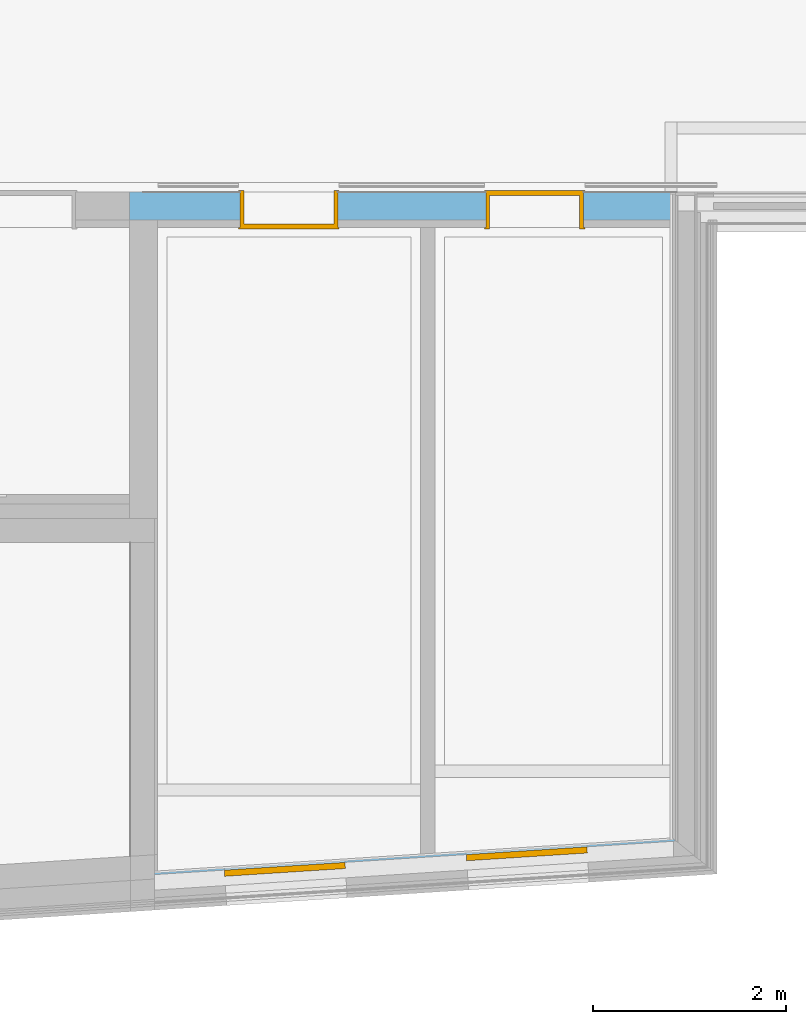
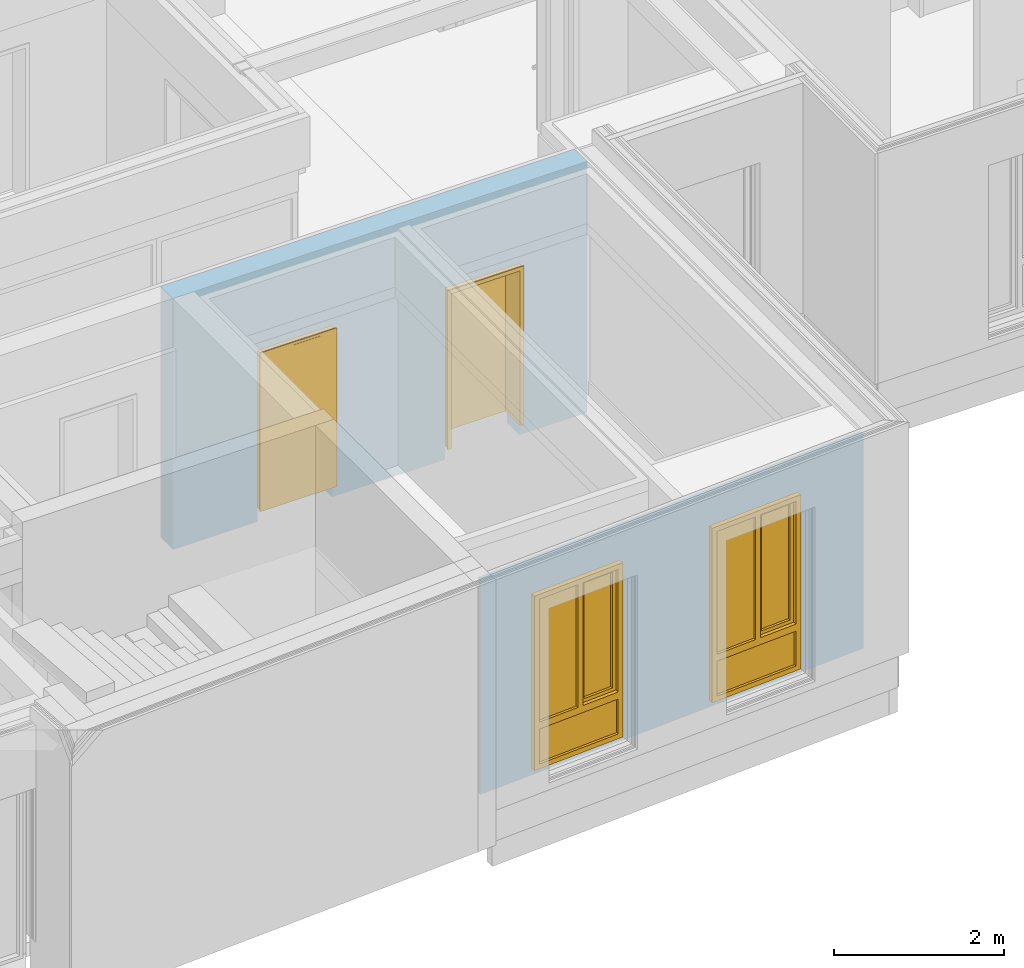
# One storey, part 119 of 207: 2 doors, 2 windows, 4 openings, plus 2 elements that do not belong to this part.
"""IFC4 building model written with IfcOpenShell, lengths in metres."""

from ifc_helpers import new_model, entity, si_unit, converted_unit, derived_unit, frame, frame_2d, origin, origin_with_axes, place, context, subcontext, project, spatial, polyline, rectangle, outline, extrude, closed_shell, open_shell, faceted_brep, surface_model, source, transform, mapped, material, type_object, element, fill, save


model = new_model("IFC4")

# Units and contexts
model_context = context("Model", 3, precision=1e-05, world=origin())
body_context = subcontext(model_context, "Body", "Model", "MODEL_VIEW")
ifc_project = project(units=[si_unit("LENGTHUNIT", "METRE"), si_unit("AREAUNIT", "SQUARE_METRE"), si_unit("VOLUMEUNIT", "CUBIC_METRE"), si_unit("MASSUNIT", "GRAM", prefix="KILO"), converted_unit("PLANEANGLEUNIT", "DEGREE", entity("IfcPlaneAngleMeasure", 0.0174532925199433), si_unit("PLANEANGLEUNIT", "RADIAN"), dimensions=[0, 0, 0, 0, 0, 0, 0]), derived_unit("THERMALTRANSMITTANCEUNIT", [(si_unit("POWERUNIT", "WATT"), 1), (si_unit("THERMODYNAMICTEMPERATUREUNIT", "KELVIN"), -1), (si_unit("LENGTHUNIT", "METRE"), -2)]), derived_unit("VOLUMETRICFLOWRATEUNIT", [(si_unit("LENGTHUNIT", "METRE"), 3), (converted_unit("TIMEUNIT", "hour", entity("IfcTimeMeasure", 3600.0), si_unit("TIMEUNIT", "SECOND"), dimensions=[0, 0, 1, 0, 0, 0, 0]), -1), (si_unit("LENGTHUNIT", "METRE"), -1)])], contexts=[model_context])

# Site, building, storey
site_placement = place(None, origin())
site = spatial("IfcSite", under=ifc_project, at=site_placement, Name="Psychiatrie Neubau Wunstorf", CompositionType="ELEMENT")
building_placement = place(site_placement, origin())
building = spatial("IfcBuilding", under=site, at=building_placement, Name="Neubau H2 Stationsgebäude", CompositionType="ELEMENT")
storey_placement = place(building_placement, frame((0.0, 0.0, -0.2)))
storey = spatial("IfcBuildingStorey", under=building, at=storey_placement, Name="H2 Ebene 0", CompositionType="ELEMENT", Elevation=-0.2)

# Wall, openings, windows
ifc_material_1 = material(Name="WA-LB")
wall_1_placement = place(storey_placement, frame((67.8525, -6.14011590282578, 0.5), z_axis=(0.0, 0.0, 1.0), x_axis=(-0.99794432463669, -0.0640868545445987, 0.0)))
wall_1 = element("IfcWall", 1, at=wall_1_placement, inside=storey, material=ifc_material_1, context=body_context, shape_type="SweptSolid", body=[
    extrude(outline(polyline([(-5.36582681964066, -0.0359999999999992), (-0.00231187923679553, -0.0359999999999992), (0.0, 0.0), (-5.40497329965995, 0.0), (-5.36582681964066, -0.0359999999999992)])), frame((5.36582681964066, 0.0359999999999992, 0.0), z_axis=(0.0, 0.0, 1.0), x_axis=(1.0, 0.0, 0.0)), (0.0, 0.0, 1.0), 3.1),
])
opening_1_placement = place(wall_1_placement, frame((4.64269776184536, 0.035999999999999, 0.1), z_axis=(-2.52637417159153e-14, -1.0, 0.0), x_axis=(0.0, 0.0, 1.0)))
opening_1 = element("IfcOpeningElement", 2, at=opening_1_placement, cuts=wall_1, Name="Fensteröffnung", ObjectType="Opening", context=body_context, shape_type="SweptSolid", body=[
    extrude(outline(polyline([(2.5, 1.24999999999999), (2.5, 0.0), (0.0, 0.0), (0.0, 1.24999999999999), (2.5, 1.24999999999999)])), origin_with_axes(), (0.0, 0.0, 1.0), 0.0359999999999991),
])
opening_2_placement = place(wall_1_placement, frame((2.1362370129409, 0.0360000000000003, 0.1), z_axis=(1.64214321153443e-13, -1.0, 0.0), x_axis=(0.0, 0.0, 1.0)))
opening_2 = element("IfcOpeningElement", 3, at=opening_2_placement, cuts=wall_1, Name="Fensteröffnung", ObjectType="Opening", context=body_context, shape_type="SweptSolid", body=[
    extrude(outline(polyline([(2.5, 1.24999999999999), (2.5, 0.0), (0.0, 0.0), (0.0, 1.24999999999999), (2.5, 1.24999999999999)])), origin_with_axes(), (0.0, 0.0, 1.0), 0.0360000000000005),
])
shared_shape_1 = source(origin_with_axes(), body_context, "Body", "SurfaceModel", [
    surface_model("IfcShellBasedSurfaceModel", [(0.0, 0.0, 2.5), (0.0700000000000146, 0.0, 2.5), (0.0700000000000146, 0.0, 0.0), (0.0, 0.0, 0.0), (0.0, 0.0700000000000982, 0.0), (0.0700000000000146, 0.0700000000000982, 0.0), (0.0700000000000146, 0.0700000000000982, 2.5), (0.0, 0.0700000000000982, 2.5)], [closed_shell([[[0, 1, 2, 3]], [[4, 5, 6, 7]], [[3, 4, 7, 0]], [[2, 5, 4, 3]], [[1, 6, 5, 2]], [[0, 7, 6, 1]]], orient=[[False], [False], [False], [False], [False], [False]])]),
    surface_model("IfcShellBasedSurfaceModel", [(1.18000000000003, 0.0, 2.5), (1.25000000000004, 0.0, 2.5), (1.25000000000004, 0.0, 0.0), (1.18000000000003, 0.0, 0.0), (1.18000000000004, 0.0700000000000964, 0.0), (1.25000000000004, 0.0700000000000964, 0.0), (1.25000000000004, 0.0700000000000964, 2.5), (1.18000000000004, 0.0700000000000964, 2.5)], [closed_shell([[[0, 1, 2, 3]], [[4, 5, 6, 7]], [[3, 4, 7, 0]], [[2, 5, 4, 3]], [[1, 6, 5, 2]], [[0, 7, 6, 1]]], orient=[[False], [False], [False], [False], [False], [False]])]),
    surface_model("IfcShellBasedSurfaceModel", [(0.0700000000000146, 0.0, 0.07), (1.18000000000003, 0.0, 0.07), (1.18000000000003, 0.0, 0.0), (0.0700000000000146, 0.0, 0.0), (0.0700000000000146, 0.0700000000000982, 0.0), (1.18000000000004, 0.0700000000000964, 0.0), (1.18000000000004, 0.0700000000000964, 0.07), (0.0700000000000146, 0.0700000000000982, 0.07)], [closed_shell([[[0, 1, 2, 3]], [[4, 5, 6, 7]], [[3, 4, 7, 0]], [[2, 5, 4, 3]], [[1, 6, 5, 2]], [[0, 7, 6, 1]]], orient=[[False], [False], [False], [False], [False], [False]])]),
    surface_model("IfcShellBasedSurfaceModel", [(0.0700000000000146, 0.0, 2.5), (1.18000000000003, 0.0, 2.5), (1.18000000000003, 0.0, 2.43), (0.0700000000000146, 0.0, 2.43), (0.0700000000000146, 0.0700000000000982, 2.43), (1.18000000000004, 0.0700000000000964, 2.43), (1.18000000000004, 0.0700000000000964, 2.5), (0.0700000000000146, 0.0700000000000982, 2.5)], [closed_shell([[[0, 1, 2, 3]], [[4, 5, 6, 7]], [[3, 4, 7, 0]], [[2, 5, 4, 3]], [[1, 6, 5, 2]], [[0, 7, 6, 1]]], orient=[[False], [False], [False], [False], [False], [False]])]),
    surface_model("IfcShellBasedSurfaceModel", [(0.0700000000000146, 0.0, 0.67), (1.18000000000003, 0.0, 0.67), (1.18000000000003, 0.0, 0.57), (0.0700000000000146, 0.0, 0.57), (0.0700000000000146, 0.0700000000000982, 0.57), (1.18000000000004, 0.0700000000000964, 0.57), (1.18000000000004, 0.0700000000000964, 0.67), (0.0700000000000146, 0.0700000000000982, 0.67)], [closed_shell([[[0, 1, 2, 3]], [[4, 5, 6, 7]], [[3, 4, 7, 0]], [[2, 5, 4, 3]], [[1, 6, 5, 2]], [[0, 7, 6, 1]]], orient=[[False], [False], [False], [False], [False], [False]])]),
    surface_model("IfcShellBasedSurfaceModel", [(0.0700000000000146, 0.0350000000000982, 0.07), (0.0700000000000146, 0.0350000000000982, 0.57), (1.18000000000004, 0.0350000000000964, 0.57), (1.18000000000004, 0.0350000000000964, 0.07)], [open_shell([[[0, 1, 2, 3]]], orient=[[False]])]),
    surface_model("IfcShellBasedSurfaceModel", [(0.570000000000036, 0.0, 2.43), (0.640000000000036, 0.0, 2.43), (0.640000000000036, 0.0, 0.67), (0.570000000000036, 0.0, 0.67), (0.570000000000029, 0.0700000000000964, 0.67), (0.640000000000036, 0.0700000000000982, 0.67), (0.640000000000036, 0.0700000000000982, 2.43), (0.570000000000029, 0.0700000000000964, 2.43)], [closed_shell([[[0, 1, 2, 3]], [[4, 5, 6, 7]], [[3, 4, 7, 0]], [[2, 5, 4, 3]], [[1, 6, 5, 2]], [[0, 7, 6, 1]]], orient=[[False], [False], [False], [False], [False], [False]])]),
    surface_model("IfcShellBasedSurfaceModel", [(0.0500000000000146, -0.0499999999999, 2.45), (0.120000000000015, -0.0499999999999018, 2.45), (0.120000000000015, -0.0499999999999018, 0.65), (0.0500000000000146, -0.0499999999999, 0.65), (0.0500000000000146, 0.0200000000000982, 0.65), (0.120000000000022, 0.0200000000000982, 0.65), (0.120000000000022, 0.0200000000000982, 2.45), (0.0500000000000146, 0.0200000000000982, 2.45)], [closed_shell([[[0, 1, 2, 3]], [[4, 5, 6, 7]], [[3, 4, 7, 0]], [[2, 5, 4, 3]], [[1, 6, 5, 2]], [[0, 7, 6, 1]]], orient=[[False], [False], [False], [False], [False], [False]])]),
    surface_model("IfcShellBasedSurfaceModel", [(0.520000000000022, -0.0499999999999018, 2.45), (0.590000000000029, -0.0499999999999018, 2.45), (0.590000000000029, -0.0499999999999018, 0.65), (0.520000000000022, -0.0499999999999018, 0.65), (0.520000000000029, 0.0200000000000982, 0.65), (0.590000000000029, 0.0200000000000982, 0.65), (0.590000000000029, 0.0200000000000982, 2.45), (0.520000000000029, 0.0200000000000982, 2.45)], [closed_shell([[[0, 1, 2, 3]], [[4, 5, 6, 7]], [[3, 4, 7, 0]], [[2, 5, 4, 3]], [[1, 6, 5, 2]], [[0, 7, 6, 1]]], orient=[[False], [False], [False], [False], [False], [False]])]),
    surface_model("IfcShellBasedSurfaceModel", [(0.120000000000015, -0.0499999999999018, 0.72), (0.520000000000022, -0.0499999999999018, 0.72), (0.520000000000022, -0.0499999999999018, 0.65), (0.120000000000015, -0.0499999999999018, 0.65), (0.120000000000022, 0.0200000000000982, 0.65), (0.520000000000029, 0.0200000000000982, 0.65), (0.520000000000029, 0.0200000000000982, 0.72), (0.120000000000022, 0.0200000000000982, 0.72)], [closed_shell([[[0, 1, 2, 3]], [[4, 5, 6, 7]], [[3, 4, 7, 0]], [[2, 5, 4, 3]], [[1, 6, 5, 2]], [[0, 7, 6, 1]]], orient=[[False], [False], [False], [False], [False], [False]])]),
    surface_model("IfcShellBasedSurfaceModel", [(0.120000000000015, -0.0499999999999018, 2.45), (0.520000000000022, -0.0499999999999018, 2.45), (0.520000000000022, -0.0499999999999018, 2.38), (0.120000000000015, -0.0499999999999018, 2.38), (0.120000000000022, 0.0200000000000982, 2.38), (0.520000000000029, 0.0200000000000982, 2.38), (0.520000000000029, 0.0200000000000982, 2.45), (0.120000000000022, 0.0200000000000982, 2.45)], [closed_shell([[[0, 1, 2, 3]], [[4, 5, 6, 7]], [[3, 4, 7, 0]], [[2, 5, 4, 3]], [[1, 6, 5, 2]], [[0, 7, 6, 1]]], orient=[[False], [False], [False], [False], [False], [False]])]),
    surface_model("IfcShellBasedSurfaceModel", [(0.640000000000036, 0.0350000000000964, 0.67), (0.640000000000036, 0.0350000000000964, 2.43), (1.18000000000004, 0.0350000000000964, 2.43), (1.18000000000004, 0.0350000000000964, 0.67)], [open_shell([[[0, 1, 2, 3]]], orient=[[False]])]),
    surface_model("IfcShellBasedSurfaceModel", [(0.120000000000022, -0.0149999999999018, 0.72), (0.120000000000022, -0.0149999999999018, 2.38), (0.520000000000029, -0.0149999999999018, 2.38), (0.520000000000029, -0.0149999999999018, 0.72)], [open_shell([[[0, 1, 2, 3]]], orient=[[False]])]),
])
window_1_placement = place(opening_1_placement, frame((0.0, 1.25, 0.00600000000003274), z_axis=(1.0, 0.0, 0.0), x_axis=(0.0, -1.0, -2.63400412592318e-14)))
window_1 = element("IfcWindow", 4, at=window_1_placement, inside=storey, Name="Fenster", OverallHeight=2.5, OverallWidth=1.25, PartitioningType="USERDEFINED", PredefinedType="WINDOW", context=body_context, shape_type="MappedRepresentation", body=[
    mapped(shared_shape_1, transform((0.0, 0.0, 0.0), x_axis=(1.0, 0.0, 0.0), y_axis=(0.0, 1.0, 0.0), z_axis=(0.0, 0.0, 1.0), scale=1.0)),
])
fill(opening_1, window_1)
shared_shape_2 = source(origin_with_axes(), body_context, "Body", "SurfaceModel", [
    surface_model("IfcShellBasedSurfaceModel", [(0.0, 0.0, 2.5), (0.0700000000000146, 0.0, 2.5), (0.0700000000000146, 0.0, 0.0), (0.0, 0.0, 0.0), (0.0, 0.0700000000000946, 0.0), (0.0700000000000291, 0.0700000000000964, 0.0), (0.0700000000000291, 0.0700000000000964, 2.5), (0.0, 0.0700000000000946, 2.5)], [closed_shell([[[0, 1, 2, 3]], [[4, 5, 6, 7]], [[3, 4, 7, 0]], [[2, 5, 4, 3]], [[1, 6, 5, 2]], [[0, 7, 6, 1]]], orient=[[False], [False], [False], [False], [False], [False]])]),
    surface_model("IfcShellBasedSurfaceModel", [(1.18000000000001, 0.0, 2.5), (1.25, 0.0, 2.5), (1.25, 0.0, 0.0), (1.18000000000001, 0.0, 0.0), (1.18000000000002, 0.0700000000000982, 0.0), (1.25000000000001, 0.0700000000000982, 0.0), (1.25000000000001, 0.0700000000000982, 2.5), (1.18000000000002, 0.0700000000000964, 2.5)], [closed_shell([[[0, 1, 2, 3]], [[4, 5, 6, 7]], [[3, 4, 7, 0]], [[2, 5, 4, 3]], [[1, 6, 5, 2]], [[0, 7, 6, 1]]], orient=[[False], [False], [False], [False], [False], [False]])]),
    surface_model("IfcShellBasedSurfaceModel", [(0.0700000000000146, 0.0, 0.07), (1.18000000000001, 0.0, 0.07), (1.18000000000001, 0.0, 0.0), (0.0700000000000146, 0.0, 0.0), (0.0700000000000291, 0.0700000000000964, 0.0), (1.18000000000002, 0.0700000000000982, 0.0), (1.18000000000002, 0.0700000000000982, 0.07), (0.0700000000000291, 0.0700000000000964, 0.07)], [closed_shell([[[0, 1, 2, 3]], [[4, 5, 6, 7]], [[3, 4, 7, 0]], [[2, 5, 4, 3]], [[1, 6, 5, 2]], [[0, 7, 6, 1]]], orient=[[False], [False], [False], [False], [False], [False]])]),
    surface_model("IfcShellBasedSurfaceModel", [(0.0700000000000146, 0.0, 2.5), (1.18000000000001, 0.0, 2.5), (1.18000000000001, 0.0, 2.43), (0.0700000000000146, 0.0, 2.43), (0.0700000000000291, 0.0700000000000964, 2.43), (1.18000000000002, 0.0700000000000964, 2.43), (1.18000000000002, 0.0700000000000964, 2.5), (0.0700000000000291, 0.0700000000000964, 2.5)], [closed_shell([[[0, 1, 2, 3]], [[4, 5, 6, 7]], [[3, 4, 7, 0]], [[2, 5, 4, 3]], [[1, 6, 5, 2]], [[0, 7, 6, 1]]], orient=[[False], [False], [False], [False], [False], [False]])]),
    surface_model("IfcShellBasedSurfaceModel", [(0.0700000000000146, 0.0, 0.67), (1.18000000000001, 0.0, 0.67), (1.18000000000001, 0.0, 0.57), (0.0700000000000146, 0.0, 0.57), (0.0700000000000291, 0.0700000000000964, 0.57), (1.18000000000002, 0.0700000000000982, 0.57), (1.18000000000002, 0.0700000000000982, 0.67), (0.0700000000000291, 0.0700000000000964, 0.67)], [closed_shell([[[0, 1, 2, 3]], [[4, 5, 6, 7]], [[3, 4, 7, 0]], [[2, 5, 4, 3]], [[1, 6, 5, 2]], [[0, 7, 6, 1]]], orient=[[False], [False], [False], [False], [False], [False]])]),
    surface_model("IfcShellBasedSurfaceModel", [(0.0700000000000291, 0.0350000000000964, 0.07), (0.0700000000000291, 0.0350000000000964, 0.57), (1.18000000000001, 0.0350000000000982, 0.57), (1.18000000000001, 0.0350000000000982, 0.07)], [open_shell([[[0, 1, 2, 3]]], orient=[[False]])]),
    surface_model("IfcShellBasedSurfaceModel", [(0.570000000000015, 0.0, 2.43), (0.640000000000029, 0.0, 2.43), (0.640000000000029, 0.0, 0.67), (0.570000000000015, 0.0, 0.67), (0.570000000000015, 0.0700000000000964, 0.67), (0.640000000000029, 0.0700000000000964, 0.67), (0.640000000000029, 0.0700000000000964, 2.43), (0.570000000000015, 0.0700000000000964, 2.43)], [closed_shell([[[0, 1, 2, 3]], [[4, 5, 6, 7]], [[3, 4, 7, 0]], [[2, 5, 4, 3]], [[1, 6, 5, 2]], [[0, 7, 6, 1]]], orient=[[False], [False], [False], [False], [False], [False]])]),
    surface_model("IfcShellBasedSurfaceModel", [(0.0500000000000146, -0.0499999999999, 2.45), (0.120000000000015, -0.0499999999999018, 2.45), (0.120000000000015, -0.0499999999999, 0.65), (0.0500000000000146, -0.0499999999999, 0.65), (0.0500000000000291, 0.0200000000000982, 0.65), (0.120000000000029, 0.0200000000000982, 0.65), (0.120000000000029, 0.0200000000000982, 2.45), (0.0500000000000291, 0.0200000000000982, 2.45)], [closed_shell([[[0, 1, 2, 3]], [[4, 5, 6, 7]], [[3, 4, 7, 0]], [[2, 5, 4, 3]], [[1, 6, 5, 2]], [[0, 7, 6, 1]]], orient=[[False], [False], [False], [False], [False], [False]])]),
    surface_model("IfcShellBasedSurfaceModel", [(0.520000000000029, -0.0499999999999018, 2.45), (0.590000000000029, -0.0499999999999, 2.45), (0.590000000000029, -0.0499999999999, 0.65), (0.520000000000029, -0.0499999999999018, 0.65), (0.520000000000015, 0.0200000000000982, 0.65), (0.590000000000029, 0.0200000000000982, 0.65), (0.590000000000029, 0.0200000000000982, 2.45), (0.520000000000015, 0.0200000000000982, 2.45)], [closed_shell([[[0, 1, 2, 3]], [[4, 5, 6, 7]], [[3, 4, 7, 0]], [[2, 5, 4, 3]], [[1, 6, 5, 2]], [[0, 7, 6, 1]]], orient=[[False], [False], [False], [False], [False], [False]])]),
    surface_model("IfcShellBasedSurfaceModel", [(0.120000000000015, -0.0499999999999, 0.72), (0.520000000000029, -0.0499999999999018, 0.72), (0.520000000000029, -0.0499999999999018, 0.65), (0.120000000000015, -0.0499999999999, 0.65), (0.120000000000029, 0.0200000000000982, 0.65), (0.520000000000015, 0.0200000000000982, 0.65), (0.520000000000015, 0.0200000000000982, 0.72), (0.120000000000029, 0.0200000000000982, 0.72)], [closed_shell([[[0, 1, 2, 3]], [[4, 5, 6, 7]], [[3, 4, 7, 0]], [[2, 5, 4, 3]], [[1, 6, 5, 2]], [[0, 7, 6, 1]]], orient=[[False], [False], [False], [False], [False], [False]])]),
    surface_model("IfcShellBasedSurfaceModel", [(0.120000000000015, -0.0499999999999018, 2.45), (0.520000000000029, -0.0499999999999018, 2.45), (0.520000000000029, -0.0499999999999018, 2.38), (0.120000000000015, -0.0499999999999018, 2.38), (0.120000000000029, 0.0200000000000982, 2.38), (0.520000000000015, 0.0200000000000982, 2.38), (0.520000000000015, 0.0200000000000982, 2.45), (0.120000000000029, 0.0200000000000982, 2.45)], [closed_shell([[[0, 1, 2, 3]], [[4, 5, 6, 7]], [[3, 4, 7, 0]], [[2, 5, 4, 3]], [[1, 6, 5, 2]], [[0, 7, 6, 1]]], orient=[[False], [False], [False], [False], [False], [False]])]),
    surface_model("IfcShellBasedSurfaceModel", [(0.640000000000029, 0.0350000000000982, 0.67), (0.640000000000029, 0.0350000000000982, 2.43), (1.18000000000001, 0.0350000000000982, 2.43), (1.18000000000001, 0.0350000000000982, 0.67)], [open_shell([[[0, 1, 2, 3]]], orient=[[False]])]),
    surface_model("IfcShellBasedSurfaceModel", [(0.120000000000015, -0.0149999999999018, 0.72), (0.120000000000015, -0.0149999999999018, 2.38), (0.520000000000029, -0.0149999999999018, 2.38), (0.520000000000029, -0.0149999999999, 0.72)], [open_shell([[[0, 1, 2, 3]]], orient=[[False]])]),
])
window_2_placement = place(opening_2_placement, frame((0.0, 1.25000000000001, 0.00599999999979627), z_axis=(1.0, 0.0, 0.0), x_axis=(0.0, -1.0, 1.63147273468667e-13)))
window_2 = element("IfcWindow", 5, at=window_2_placement, inside=storey, Name="Fenster", OverallHeight=2.5, OverallWidth=1.25, PartitioningType="USERDEFINED", PredefinedType="WINDOW", context=body_context, shape_type="MappedRepresentation", body=[
    mapped(shared_shape_2, transform((0.0, 0.0, 0.0), x_axis=(1.0, 0.0, 0.0), y_axis=(0.0, 1.0, 0.0), z_axis=(0.0, 0.0, 1.0), scale=1.0)),
])
fill(opening_2, window_2)

# Wall, openings, doors
ifc_material_2 = material(Name="WI-HW 60")
wall_2_placement = place(storey_placement, frame((67.8525, 0.536002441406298, 0.0), z_axis=(0.0, 0.0, 1.0), x_axis=(-1.0, 0.0, 0.0)))
wall_2 = element("IfcWall", 6, at=wall_2_placement, inside=storey, material=ifc_material_2, context=body_context, shape_type="SweptSolid", body=[
    extrude(rectangle(XDim=5.61270635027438, YDim=0.29, at=frame_2d((2.80635317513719, 0.145), x_axis=(1.0, 0.0))), origin_with_axes(), (0.0, 0.0, 1.0), 3.6),
])
opening_3_placement = place(wall_2_placement, frame((1.9275, 0.29, 0.0), z_axis=(0.0, -1.0, 0.0), x_axis=(0.0, 0.0, 1.0)))
opening_3 = element("IfcOpeningElement", 7, at=opening_3_placement, cuts=wall_2, Name="Türöffnung", ObjectType="Opening", context=body_context, shape_type="SweptSolid", body=[
    extrude(outline(polyline([(2.46, 1.01), (2.46, 0.0), (0.0, 0.0), (0.0, 1.01), (2.46, 1.01)])), origin_with_axes(), (0.0, 0.0, 1.0), 0.29),
])
opening_4_placement = place(wall_2_placement, frame((3.45827442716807, 0.0, 0.0), z_axis=(0.0, 1.0, 0.0), x_axis=(0.0, 0.0, 1.0)))
opening_4 = element("IfcOpeningElement", 8, at=opening_4_placement, cuts=wall_2, Name="Türöffnung", ObjectType="Opening", context=body_context, shape_type="SweptSolid", body=[
    extrude(outline(polyline([(2.46, 1.01), (2.46, 0.0), (0.0, 0.0), (0.0, 1.01), (2.46, 1.01)])), origin_with_axes(), (0.0, 0.0, 1.0), 0.29),
])
ifc_material_3 = material(Name="TI-1F-UZ-D")
door_type_1 = type_object("IfcDoorType", Name="SMT", OperationType="SINGLE_SWING_RIGHT", ParameterTakesPrecedence=False, PredefinedType="DOOR")
shared_shape_3 = source(origin_with_axes(), body_context, "Body", "Brep", [
    faceted_brep([(0.0, -0.0150000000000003, 2.46), (0.04, -0.0150000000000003, 2.46), (0.04, -0.015, 0.2), (0.0, -0.015, 0.2), (0.0, 0.38, 0.2), (0.04, 0.38, 0.2), (0.04, 0.38, 2.46), (0.0, 0.38, 2.46)], [[[0, 1, 2, 3]], [[4, 5, 6, 7]], [[3, 4, 7, 0]], [[2, 5, 4, 3]], [[1, 6, 5, 2]], [[0, 7, 6, 1]]], orient=[[False], [False], [False], [False], [False], [False]]),
    faceted_brep([(0.0, -0.0150000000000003, 2.475), (0.0, -0.015, 0.2), (-0.015, -0.015, 0.2), (-0.015, -0.0150000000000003, 2.475), (0.0, 0.0, 0.2), (0.0, 0.0, 2.475), (-0.015, 0.0, 2.475), (-0.015, 0.0, 0.2)], [[[0, 1, 2, 3]], [[4, 5, 6, 7]], [[1, 0, 5, 4]], [[2, 1, 4, 7]], [[3, 2, 7, 6]], [[0, 3, 6, 5]]], orient=[[False], [False], [False], [False], [False], [False]]),
    faceted_brep([(0.0, 0.365, 2.475), (0.0, 0.365, 0.2), (-0.015, 0.365, 0.2), (-0.015, 0.365, 2.475), (0.0, 0.38, 0.2), (0.0, 0.38, 2.475), (-0.015, 0.38, 2.475), (-0.015, 0.38, 0.2)], [[[0, 1, 2, 3]], [[4, 5, 6, 7]], [[1, 0, 5, 4]], [[2, 1, 4, 7]], [[3, 2, 7, 6]], [[0, 3, 6, 5]]], orient=[[False], [False], [False], [False], [False], [False]]),
    faceted_brep([(0.97, -0.0150000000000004, 2.46), (1.01, -0.0150000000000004, 2.46), (1.01, -0.0150000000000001, 0.2), (0.97, -0.0150000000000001, 0.2), (0.97, 0.38, 0.2), (1.01, 0.38, 0.2), (1.01, 0.38, 2.46), (0.97, 0.38, 2.46)], [[[0, 1, 2, 3]], [[4, 5, 6, 7]], [[3, 4, 7, 0]], [[2, 5, 4, 3]], [[1, 6, 5, 2]], [[0, 7, 6, 1]]], orient=[[False], [False], [False], [False], [False], [False]]),
    faceted_brep([(1.01, -0.0150000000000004, 2.475), (1.025, -0.0150000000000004, 2.475), (1.025, -0.0150000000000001, 0.2), (1.01, -0.0150000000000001, 0.2), (1.01, 0.0, 0.2), (1.025, 0.0, 0.2), (1.025, 0.0, 2.475), (1.01, 0.0, 2.475)], [[[0, 1, 2, 3]], [[4, 5, 6, 7]], [[3, 4, 7, 0]], [[2, 5, 4, 3]], [[1, 6, 5, 2]], [[0, 7, 6, 1]]], orient=[[False], [False], [False], [False], [False], [False]]),
    faceted_brep([(1.01, 0.365, 2.475), (1.025, 0.365, 2.475), (1.025, 0.365, 0.2), (1.01, 0.365, 0.2), (1.01, 0.38, 0.2), (1.025, 0.38, 0.2), (1.025, 0.38, 2.475), (1.01, 0.38, 2.475)], [[[0, 1, 2, 3]], [[4, 5, 6, 7]], [[3, 4, 7, 0]], [[2, 5, 4, 3]], [[1, 6, 5, 2]], [[0, 7, 6, 1]]], orient=[[False], [False], [False], [False], [False], [False]]),
    faceted_brep([(0.04, -0.0150000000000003, 2.46), (0.97, -0.0150000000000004, 2.46), (0.97, -0.0150000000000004, 2.42), (0.04, -0.0150000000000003, 2.42), (0.04, 0.38, 2.42), (0.97, 0.38, 2.42), (0.97, 0.38, 2.46), (0.04, 0.38, 2.46)], [[[0, 1, 2, 3]], [[4, 5, 6, 7]], [[3, 4, 7, 0]], [[2, 5, 4, 3]], [[1, 6, 5, 2]], [[0, 7, 6, 1]]], orient=[[False], [False], [False], [False], [False], [False]]),
    faceted_brep([(0.0, -0.0150000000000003, 2.475), (1.01, -0.0150000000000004, 2.475), (1.01, -0.0150000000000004, 2.46), (0.0, -0.0150000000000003, 2.46), (0.0, 0.0, 2.46), (1.01, 0.0, 2.46), (1.01, 0.0, 2.475), (0.0, 0.0, 2.475)], [[[0, 1, 2, 3]], [[4, 5, 6, 7]], [[3, 4, 7, 0]], [[2, 5, 4, 3]], [[1, 6, 5, 2]], [[0, 7, 6, 1]]], orient=[[False], [False], [False], [False], [False], [False]]),
    faceted_brep([(0.0, 0.365, 2.475), (1.01, 0.365, 2.475), (1.01, 0.365, 2.46), (0.0, 0.365, 2.46), (0.0, 0.38, 2.46), (1.01, 0.38, 2.46), (1.01, 0.38, 2.475), (0.0, 0.38, 2.475)], [[[0, 1, 2, 3]], [[4, 5, 6, 7]], [[3, 4, 7, 0]], [[2, 5, 4, 3]], [[1, 6, 5, 2]], [[0, 7, 6, 1]]], orient=[[False], [False], [False], [False], [False], [False]]),
    faceted_brep([(0.025, 0.331, 2.435), (0.985, 0.331, 2.435), (0.985, 0.331, 0.2), (0.025, 0.331, 0.2), (0.025, 0.381, 0.2), (0.985, 0.381, 0.2), (0.985, 0.381, 2.435), (0.025, 0.381, 2.435)], [[[0, 1, 2, 3]], [[4, 5, 6, 7]], [[3, 4, 7, 0]], [[2, 5, 4, 3]], [[1, 6, 5, 2]], [[0, 7, 6, 1]]], orient=[[False], [False], [False], [False], [False], [False]]),
])
door_1_placement = place(opening_3_placement, frame((0.0, 0.0, -0.075), z_axis=(1.0, 0.0, 0.0), x_axis=(0.0, 1.0, 0.0)))
door_1 = element("IfcDoor", 9, at=door_1_placement, inside=storey, type_object=door_type_1, material=ifc_material_3, Name="SMT", OverallHeight=2.46, OverallWidth=1.01, context=body_context, shape_type="MappedRepresentation", body=[
    mapped(shared_shape_3, transform((0.0, 0.0, 0.0), x_axis=(1.0, 0.0, 0.0), y_axis=(0.0, 1.0, 0.0), z_axis=(0.0, 0.0, 1.0), scale=1.0)),
])
fill(opening_3, door_1)
ifc_material_4 = material(Name="TI-1F-UZ-D")
door_type_2 = type_object("IfcDoorType", Name="SMT", OperationType="SINGLE_SWING_RIGHT", ParameterTakesPrecedence=False, PredefinedType="DOOR")
shared_shape_4 = source(origin_with_axes(), body_context, "Body", "Brep", [
    faceted_brep([(0.0, -0.0150000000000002, 2.46), (0.04, -0.0150000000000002, 2.46), (0.04, -0.015, 0.2), (0.0, -0.015, 0.2), (0.0, 0.38, 0.2), (0.04, 0.38, 0.2), (0.04, 0.38, 2.46), (0.0, 0.38, 2.46)], [[[0, 1, 2, 3]], [[4, 5, 6, 7]], [[3, 4, 7, 0]], [[2, 5, 4, 3]], [[1, 6, 5, 2]], [[0, 7, 6, 1]]], orient=[[False], [False], [False], [False], [False], [False]]),
    faceted_brep([(0.0, -0.0150000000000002, 2.475), (0.0, -0.015, 0.2), (-0.015, -0.015, 0.2), (-0.015, -0.0150000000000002, 2.475), (0.0, 0.0, 0.2), (0.0, 0.0, 2.475), (-0.015, 0.0, 2.475), (-0.015, 0.0, 0.2)], [[[0, 1, 2, 3]], [[4, 5, 6, 7]], [[1, 0, 5, 4]], [[2, 1, 4, 7]], [[3, 2, 7, 6]], [[0, 3, 6, 5]]], orient=[[False], [False], [False], [False], [False], [False]]),
    faceted_brep([(0.0, 0.365, 2.475), (0.0, 0.365, 0.2), (-0.015, 0.365, 0.2), (-0.015, 0.365, 2.475), (0.0, 0.38, 0.2), (0.0, 0.38, 2.475), (-0.015, 0.38, 2.475), (-0.015, 0.38, 0.2)], [[[0, 1, 2, 3]], [[4, 5, 6, 7]], [[1, 0, 5, 4]], [[2, 1, 4, 7]], [[3, 2, 7, 6]], [[0, 3, 6, 5]]], orient=[[False], [False], [False], [False], [False], [False]]),
    faceted_brep([(0.97, -0.0150000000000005, 2.46), (1.01, -0.0150000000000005, 2.46), (1.01, -0.0150000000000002, 0.2), (0.97, -0.0150000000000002, 0.2), (0.97, 0.38, 0.2), (1.01, 0.38, 0.2), (1.01, 0.38, 2.46), (0.97, 0.38, 2.46)], [[[0, 1, 2, 3]], [[4, 5, 6, 7]], [[3, 4, 7, 0]], [[2, 5, 4, 3]], [[1, 6, 5, 2]], [[0, 7, 6, 1]]], orient=[[False], [False], [False], [False], [False], [False]]),
    faceted_brep([(1.01, -0.0150000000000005, 2.475), (1.025, -0.0150000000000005, 2.475), (1.025, -0.0150000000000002, 0.2), (1.01, -0.0150000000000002, 0.2), (1.01, 0.0, 0.2), (1.025, 0.0, 0.2), (1.025, 0.0, 2.475), (1.01, 0.0, 2.475)], [[[0, 1, 2, 3]], [[4, 5, 6, 7]], [[3, 4, 7, 0]], [[2, 5, 4, 3]], [[1, 6, 5, 2]], [[0, 7, 6, 1]]], orient=[[False], [False], [False], [False], [False], [False]]),
    faceted_brep([(1.01, 0.365, 2.475), (1.025, 0.365, 2.475), (1.025, 0.365, 0.2), (1.01, 0.365, 0.2), (1.01, 0.38, 0.2), (1.025, 0.38, 0.2), (1.025, 0.38, 2.475), (1.01, 0.38, 2.475)], [[[0, 1, 2, 3]], [[4, 5, 6, 7]], [[3, 4, 7, 0]], [[2, 5, 4, 3]], [[1, 6, 5, 2]], [[0, 7, 6, 1]]], orient=[[False], [False], [False], [False], [False], [False]]),
    faceted_brep([(0.04, -0.0150000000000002, 2.46), (0.97, -0.0150000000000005, 2.46), (0.97, -0.0150000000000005, 2.42), (0.04, -0.0150000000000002, 2.42), (0.04, 0.38, 2.42), (0.97, 0.38, 2.42), (0.97, 0.38, 2.46), (0.04, 0.38, 2.46)], [[[0, 1, 2, 3]], [[4, 5, 6, 7]], [[3, 4, 7, 0]], [[2, 5, 4, 3]], [[1, 6, 5, 2]], [[0, 7, 6, 1]]], orient=[[False], [False], [False], [False], [False], [False]]),
    faceted_brep([(0.0, -0.0150000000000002, 2.475), (1.01, -0.0150000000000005, 2.475), (1.01, -0.0150000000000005, 2.46), (0.0, -0.0150000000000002, 2.46), (0.0, 0.0, 2.46), (1.01, 0.0, 2.46), (1.01, 0.0, 2.475), (0.0, 0.0, 2.475)], [[[0, 1, 2, 3]], [[4, 5, 6, 7]], [[3, 4, 7, 0]], [[2, 5, 4, 3]], [[1, 6, 5, 2]], [[0, 7, 6, 1]]], orient=[[False], [False], [False], [False], [False], [False]]),
    faceted_brep([(0.0, 0.365, 2.475), (1.01, 0.365, 2.475), (1.01, 0.365, 2.46), (0.0, 0.365, 2.46), (0.0, 0.38, 2.46), (1.01, 0.38, 2.46), (1.01, 0.38, 2.475), (0.0, 0.38, 2.475)], [[[0, 1, 2, 3]], [[4, 5, 6, 7]], [[3, 4, 7, 0]], [[2, 5, 4, 3]], [[1, 6, 5, 2]], [[0, 7, 6, 1]]], orient=[[False], [False], [False], [False], [False], [False]]),
    faceted_brep([(0.025, 0.331, 2.435), (0.985, 0.331, 2.435), (0.985, 0.331, 0.2), (0.025, 0.331, 0.2), (0.025, 0.381, 0.2), (0.985, 0.381, 0.2), (0.985, 0.381, 2.435), (0.025, 0.381, 2.435)], [[[0, 1, 2, 3]], [[4, 5, 6, 7]], [[3, 4, 7, 0]], [[2, 5, 4, 3]], [[1, 6, 5, 2]], [[0, 7, 6, 1]]], orient=[[False], [False], [False], [False], [False], [False]]),
])
door_2_placement = place(opening_4_placement, frame((0.0, 0.0, 0.0), z_axis=(1.0, 0.0, 0.0), x_axis=(0.0, 1.0, 0.0)))
door_2 = element("IfcDoor", 10, at=door_2_placement, inside=storey, type_object=door_type_2, material=ifc_material_4, Name="SMT", OverallHeight=2.46, OverallWidth=1.01, context=body_context, shape_type="MappedRepresentation", body=[
    mapped(shared_shape_4, transform((0.0, 0.0, 0.0), x_axis=(1.0, 0.0, 0.0), y_axis=(0.0, 1.0, 0.0), z_axis=(0.0, 0.0, 1.0), scale=1.0)),
])
fill(opening_4, door_2)

save(model, "model.ifc")
